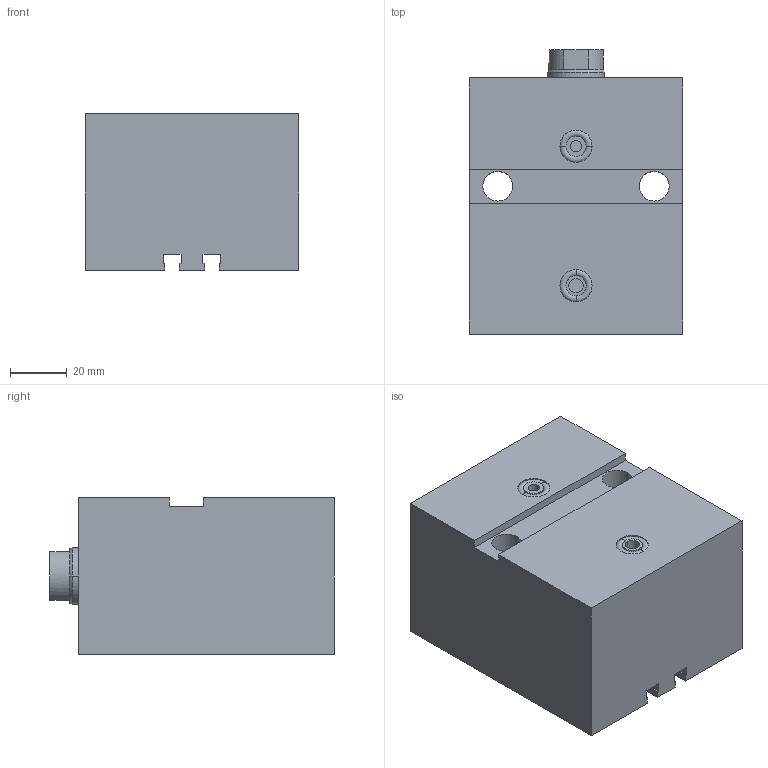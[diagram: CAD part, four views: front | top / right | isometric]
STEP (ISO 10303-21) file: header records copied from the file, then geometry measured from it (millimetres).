
FILE_DESCRIPTION (( 'STEP AP203' ), '1' );
FILE_NAME ('GERMA_Blockzylinder_704-032-025.STEP', '2016-07-23T08:48:34', ( '' ), ( '' ), 'SwSTEP 2.0', 'SolidWorks 2015', '' );
FILE_SCHEMA (( 'CONFIG_CONTROL_DESIGN' ));
Length unit declared in the file: millimetre
Products named in the file (3): GH-700-032_GH-704-032-025; Kolben_MT 70x-032_Kolben_MT DU.32-Hub25-IG; GERMA_Blockzylinder_704-032-025
Assembly tree (2 placements, depth 2):
  GERMA_Blockzylinder_704-032-025
    GH-700-032_GH-704-032-025
    Kolben_MT 70x-032_Kolben_MT DU.32-Hub25-IG
Bounding box: 75 x 100 x 55 mm (x, y, z)
Volume: 342067.8 mm3; surface area: 53172.9 mm2
Topology: 2 solids, 2 shells, 100 faces, 230 edges, 142 vertices
Faces by surface type: plane 43, cylinder 39, cone 14, torus 4
Entity records: 3098 total; most frequent: DIRECTION 527, CARTESIAN_POINT 471, ORIENTED_EDGE 448, EDGE_CURVE 224, AXIS2_PLACEMENT_3D 198, VERTEX_POINT 142, VECTOR 131, LINE 131
